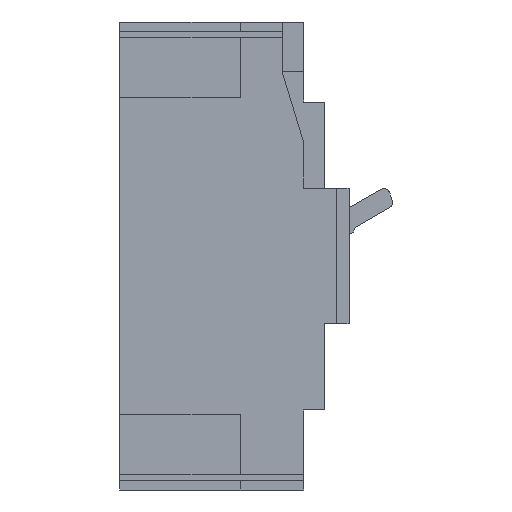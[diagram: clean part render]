
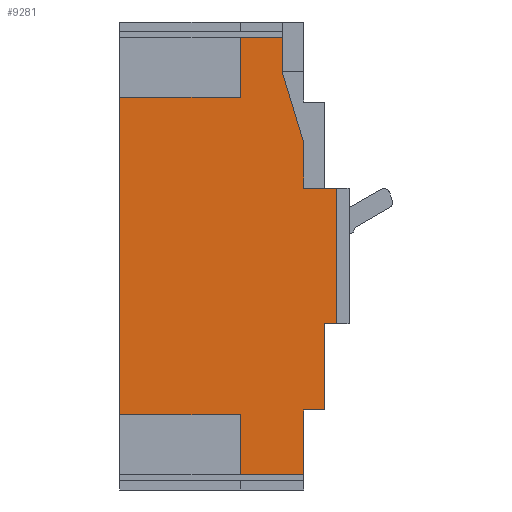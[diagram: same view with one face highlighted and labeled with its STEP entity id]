
A CAD part, left-side view. The second image highlights one B-rep face of the part: STEP entity #9281.
In plain terms, the highlighted planar face has unit normal (-1, 0, 0).
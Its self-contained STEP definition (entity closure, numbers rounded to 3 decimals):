
#2=DIRECTION('',(0.,-1.,0.));
#3=VECTOR('',#2,40.);
#4=CARTESIAN_POINT('',(-45.,30.5,-52.5));
#5=LINE('',#4,#3);
#6=DIRECTION('',(0.,0.,1.));
#7=VECTOR('',#6,105.);
#8=CARTESIAN_POINT('',(-45.,30.5,-52.5));
#9=LINE('',#8,#7);
#10=DIRECTION('',(0.,-1.,0.));
#11=VECTOR('',#10,40.);
#12=CARTESIAN_POINT('',(-45.,30.5,52.5));
#13=LINE('',#12,#11);
#14=DIRECTION('',(0.,0.,-1.));
#15=VECTOR('',#14,20.);
#16=CARTESIAN_POINT('',(-45.,-9.5,72.5));
#17=LINE('',#16,#15);
#18=DIRECTION('',(0.,-1.,0.));
#19=VECTOR('',#18,14.);
#20=CARTESIAN_POINT('',(-45.,-9.5,72.5));
#21=LINE('',#20,#19);
#22=DIRECTION('',(0.,0.,-1.));
#23=VECTOR('',#22,12.);
#24=CARTESIAN_POINT('',(-45.,-23.5,72.5));
#25=LINE('',#24,#23);
#26=DIRECTION('',(0.,0.291,0.957));
#27=VECTOR('',#26,24.042);
#28=CARTESIAN_POINT('',(-45.,-30.5,37.5));
#29=LINE('',#28,#27);
#30=DIRECTION('',(0.,0.,1.));
#31=VECTOR('',#30,15.);
#32=CARTESIAN_POINT('',(-45.,-30.5,22.5));
#33=LINE('',#32,#31);
#34=DIRECTION('',(0.,0.,-1.));
#35=VECTOR('',#34,45.);
#36=CARTESIAN_POINT('',(-45.,-41.5,22.5));
#37=LINE('',#36,#35);
#38=DIRECTION('',(0.,1.,0.));
#39=VECTOR('',#38,4.);
#40=CARTESIAN_POINT('',(-45.,-41.5,-22.5));
#41=LINE('',#40,#39);
#42=DIRECTION('',(0.,0.,-1.));
#43=VECTOR('',#42,28.5);
#44=CARTESIAN_POINT('',(-45.,-37.5,-22.5));
#45=LINE('',#44,#43);
#46=DIRECTION('',(0.,1.,0.));
#47=VECTOR('',#46,7.);
#48=CARTESIAN_POINT('',(-45.,-37.5,-51.));
#49=LINE('',#48,#47);
#50=DIRECTION('',(0.,0.,-1.));
#51=VECTOR('',#50,21.5);
#52=CARTESIAN_POINT('',(-45.,-30.5,-51.));
#53=LINE('',#52,#51);
#54=DIRECTION('',(0.,-1.,0.));
#55=VECTOR('',#54,21.);
#56=CARTESIAN_POINT('',(-45.,-9.5,-72.5));
#57=LINE('',#56,#55);
#58=DIRECTION('',(0.,0.,1.));
#59=VECTOR('',#58,20.);
#60=CARTESIAN_POINT('',(-45.,-9.5,-72.5));
#61=LINE('',#60,#59);
#707=DIRECTION('',(0.,1.,0.));
#708=VECTOR('',#707,11.);
#709=CARTESIAN_POINT('',(-45.,-41.5,22.5));
#710=LINE('',#709,#708);
#6958=CARTESIAN_POINT('',(-45.,-37.5,-22.5));
#6959=CARTESIAN_POINT('',(-45.,-37.5,-51.));
#6960=VERTEX_POINT('',#6958);
#6961=VERTEX_POINT('',#6959);
#6962=CARTESIAN_POINT('',(-45.,-30.5,-51.));
#6963=VERTEX_POINT('',#6962);
#7830=CARTESIAN_POINT('',(-45.,-30.5,-72.5));
#7831=VERTEX_POINT('',#7830);
#7872=CARTESIAN_POINT('',(-45.,-41.5,22.5));
#7873=CARTESIAN_POINT('',(-45.,-41.5,-22.5));
#7874=VERTEX_POINT('',#7872);
#7875=VERTEX_POINT('',#7873);
#8234=CARTESIAN_POINT('',(-45.,-30.5,22.5));
#8235=VERTEX_POINT('',#8234);
#8236=CARTESIAN_POINT('',(-45.,-30.5,37.5));
#8237=VERTEX_POINT('',#8236);
#8238=CARTESIAN_POINT('',(-45.,-23.5,60.5));
#8239=VERTEX_POINT('',#8238);
#8244=CARTESIAN_POINT('',(-45.,-23.5,72.5));
#8245=VERTEX_POINT('',#8244);
#8658=CARTESIAN_POINT('',(-45.,-9.5,-52.5));
#8659=VERTEX_POINT('',#8658);
#8660=CARTESIAN_POINT('',(-45.,-9.5,52.5));
#8661=VERTEX_POINT('',#8660);
#8662=CARTESIAN_POINT('',(-45.,30.5,-52.5));
#8663=VERTEX_POINT('',#8662);
#8668=CARTESIAN_POINT('',(-45.,-9.5,-72.5));
#8669=VERTEX_POINT('',#8668);
#8674=CARTESIAN_POINT('',(-45.,-9.5,72.5));
#8675=VERTEX_POINT('',#8674);
#8676=CARTESIAN_POINT('',(-45.,30.5,52.5));
#8677=VERTEX_POINT('',#8676);
#9242=CARTESIAN_POINT('',(-45.,0.,0.));
#9243=DIRECTION('',(1.,0.,0.));
#9244=DIRECTION('',(0.,-1.,0.));
#9245=AXIS2_PLACEMENT_3D('',#9242,#9243,#9244);
#9246=PLANE('',#9245);
#9248=ORIENTED_EDGE('',*,*,#9247,.F.);
#9250=ORIENTED_EDGE('',*,*,#9249,.T.);
#9252=ORIENTED_EDGE('',*,*,#9251,.T.);
#9254=ORIENTED_EDGE('',*,*,#9253,.F.);
#9256=ORIENTED_EDGE('',*,*,#9255,.T.);
#9258=ORIENTED_EDGE('',*,*,#9257,.T.);
#9260=ORIENTED_EDGE('',*,*,#9259,.F.);
#9262=ORIENTED_EDGE('',*,*,#9261,.F.);
#9264=ORIENTED_EDGE('',*,*,#9263,.F.);
#9266=ORIENTED_EDGE('',*,*,#9265,.T.);
#9268=ORIENTED_EDGE('',*,*,#9267,.T.);
#9270=ORIENTED_EDGE('',*,*,#9269,.T.);
#9272=ORIENTED_EDGE('',*,*,#9271,.T.);
#9274=ORIENTED_EDGE('',*,*,#9273,.T.);
#9276=ORIENTED_EDGE('',*,*,#9275,.F.);
#9278=ORIENTED_EDGE('',*,*,#9277,.T.);
#9279=EDGE_LOOP('',(#9248,#9250,#9252,#9254,#9256,#9258,#9260,#9262,#9264,#9266,
#9268,#9270,#9272,#9274,#9276,#9278));
#9280=FACE_OUTER_BOUND('',#9279,.F.);
#9247=EDGE_CURVE('',#8663,#8659,#5,.T.);
#9249=EDGE_CURVE('',#8663,#8677,#9,.T.);
#9251=EDGE_CURVE('',#8677,#8661,#13,.T.);
#9253=EDGE_CURVE('',#8675,#8661,#17,.T.);
#9255=EDGE_CURVE('',#8675,#8245,#21,.T.);
#9257=EDGE_CURVE('',#8245,#8239,#25,.T.);
#9259=EDGE_CURVE('',#8237,#8239,#29,.T.);
#9261=EDGE_CURVE('',#8235,#8237,#33,.T.);
#9263=EDGE_CURVE('',#7874,#8235,#710,.T.);
#9265=EDGE_CURVE('',#7874,#7875,#37,.T.);
#9267=EDGE_CURVE('',#7875,#6960,#41,.T.);
#9269=EDGE_CURVE('',#6960,#6961,#45,.T.);
#9271=EDGE_CURVE('',#6961,#6963,#49,.T.);
#9273=EDGE_CURVE('',#6963,#7831,#53,.T.);
#9275=EDGE_CURVE('',#8669,#7831,#57,.T.);
#9277=EDGE_CURVE('',#8669,#8659,#61,.T.);
#9281=ADVANCED_FACE('',(#9280),#9246,.F.);
